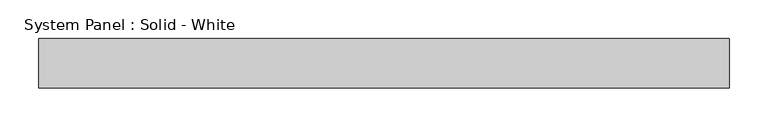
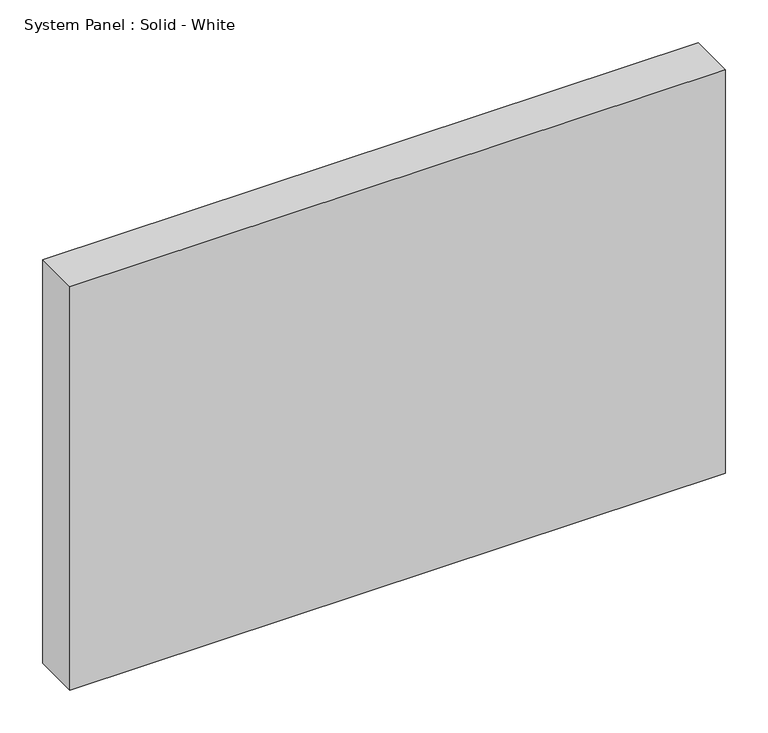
"""IFC4 building model written with IfcOpenShell, lengths in millimetres: plate geometry, System Panel : Solid - White."""

from ifc_helpers import new_model, si_unit, origin, origin_with_axes, place, context, project, spatial, polyline, outline, extrude, source, transform, mapped, element, save


def system_panel_solid_white_6cf558b3(model_context):
    return source(origin(), model_context, "Body", "SweptSolid", [
        extrude(outline(polyline([(443.9708333, -19.05), (-443.9708333, -19.05), (-443.9708333, 44.45), (443.9708333, 44.45), (443.9708333, -19.05)])), origin_with_axes(), (0.0, 0.0, 1.0), 577.85),
    ])


if __name__ == "__main__":
    model = new_model("IFC4")
    model_context = context("Model", 3, world=origin())
    ifc_project = project(units=[si_unit("LENGTHUNIT", "METRE", prefix="MILLI")], contexts=[model_context])
    site = spatial("IfcSite", under=ifc_project)
    building = spatial("IfcBuilding", under=site)
    placement = place(None, origin())
    system_panel_solid_white_shape = system_panel_solid_white_6cf558b3(model_context)
    element("IfcPlate", 1, ObjectType="System Panel : Solid - White", at=placement, inside=building, context=model_context, shape_type="MappedRepresentation", body=[
        mapped(system_panel_solid_white_shape, transform((0.0, 0.0, 0.0), x_axis=(1.0, 0.0, 0.0), y_axis=(0.0, 1.0, 0.0), z_axis=(0.0, 0.0, 1.0))),
    ])
    save(model, "model.ifc")
